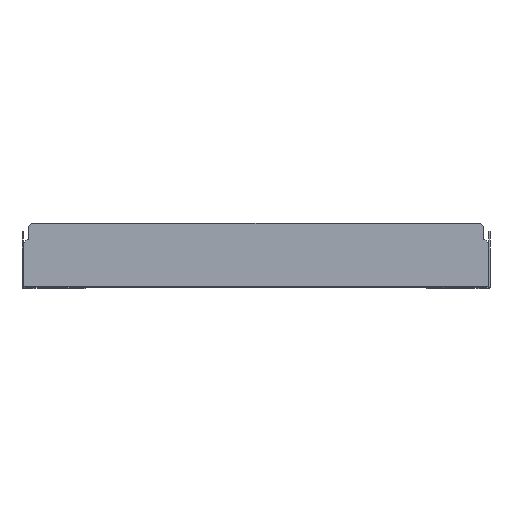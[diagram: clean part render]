
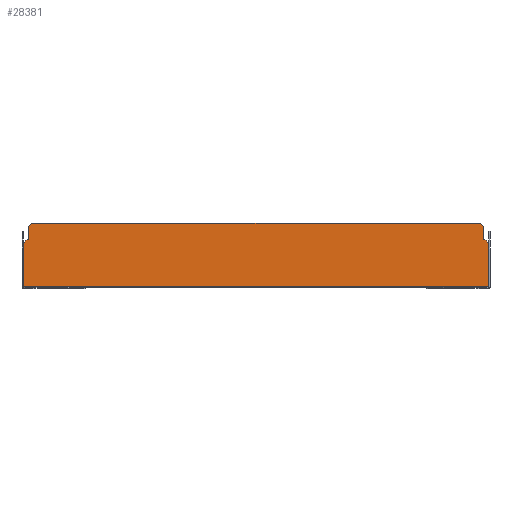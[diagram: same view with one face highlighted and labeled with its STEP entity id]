
A CAD part, front view. The second image highlights one B-rep face of the part: STEP entity #28381.
In plain terms, the highlighted planar face has unit normal (0, -1, 0).
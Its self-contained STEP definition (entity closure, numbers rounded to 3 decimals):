
#26626=CARTESIAN_POINT(' ',(295.175,275.317,4.36));
#26627=VERTEX_POINT(' ',#26626);
#26641=CARTESIAN_POINT(' ',(295.175,275.317,4.36));
#26646=DIRECTION(' ',(-1.,0.,0.));
#26651=VECTOR(' ',#26646,1.);
#26656=LINE('',#26641,#26651);
#26661=CARTESIAN_POINT(' ',(-399.825,275.317,4.36));
#26662=VERTEX_POINT(' ',#26661);
#26666=EDGE_CURVE(' ',#26627,#26662,#26656,.T.);
#26806=CARTESIAN_POINT(' ',(295.175,275.317,69.26));
#26807=VERTEX_POINT(' ',#26806);
#26821=CARTESIAN_POINT(' ',(295.175,275.317,69.26));
#26826=DIRECTION(' ',(0.,0.,-1.));
#26831=VECTOR(' ',#26826,1.);
#26836=LINE('',#26821,#26831);
#26841=EDGE_CURVE(' ',#26807,#26627,#26836,.T.);
#27421=CARTESIAN_POINT(' ',(-399.825,275.317,4.36));
#27426=DIRECTION(' ',(0.,0.,1.));
#27431=VECTOR(' ',#27426,1.);
#27436=LINE('',#27421,#27431);
#27441=CARTESIAN_POINT(' ',(-399.825,275.317,69.26));
#27442=VERTEX_POINT(' ',#27441);
#27446=EDGE_CURVE(' ',#26662,#27442,#27436,.T.);
#28021=DIRECTION(' ',(0.,-1.,0.));
#28026=CARTESIAN_POINT(' ',(-399.825,275.317,99.26));
#28031=DIRECTION(' ',(0.,0.,-1.));
#28036=AXIS2_PLACEMENT_3D(' ',#28026,#28021,#28031);
#28041=PLANE('NONE',#28036);
#28046=ORIENTED_EDGE(' ',*,*,#26841,.F.);
#28051=CARTESIAN_POINT(' ',(295.175,275.317,69.26));
#28056=DIRECTION(' ',(-0.707,0.,0.707));
#28061=VECTOR(' ',#28056,1.);
#28066=LINE('',#28051,#28061);
#28071=CARTESIAN_POINT(' ',(290.175,275.317,74.26));
#28072=VERTEX_POINT(' ',#28071);
#28076=EDGE_CURVE(' ',#26807,#28072,#28066,.T.);
#28081=ORIENTED_EDGE(' ',*,*,#28076,.T.);
#28086=CARTESIAN_POINT(' ',(288.175,275.317,74.26));
#28091=DIRECTION(' ',(1.,0.,0.));
#28096=VECTOR(' ',#28091,1.);
#28101=LINE('',#28086,#28096);
#28106=CARTESIAN_POINT(' ',(288.175,275.317,74.26));
#28107=VERTEX_POINT(' ',#28106);
#28111=EDGE_CURVE(' ',#28107,#28072,#28101,.T.);
#28116=ORIENTED_EDGE(' ',*,*,#28111,.F.);
#28121=CARTESIAN_POINT(' ',(288.175,275.317,74.26));
#28126=DIRECTION(' ',(0.,0.,1.));
#28131=VECTOR(' ',#28126,1.);
#28136=LINE('',#28121,#28131);
#28141=CARTESIAN_POINT(' ',(288.175,275.317,94.26));
#28142=VERTEX_POINT(' ',#28141);
#28146=EDGE_CURVE(' ',#28107,#28142,#28136,.T.);
#28151=ORIENTED_EDGE(' ',*,*,#28146,.T.);
#28156=CARTESIAN_POINT(' ',(288.175,275.317,94.26));
#28161=DIRECTION(' ',(-0.707,0.,0.707));
#28166=VECTOR(' ',#28161,1.);
#28171=LINE('',#28156,#28166);
#28176=CARTESIAN_POINT(' ',(283.175,275.317,99.26));
#28177=VERTEX_POINT(' ',#28176);
#28181=EDGE_CURVE(' ',#28142,#28177,#28171,.T.);
#28186=ORIENTED_EDGE(' ',*,*,#28181,.T.);
#28191=CARTESIAN_POINT(' ',(283.175,275.317,99.26));
#28196=DIRECTION(' ',(-1.,0.,0.));
#28201=VECTOR(' ',#28196,1.);
#28206=LINE('',#28191,#28201);
#28211=CARTESIAN_POINT(' ',(-387.825,275.317,99.26));
#28212=VERTEX_POINT(' ',#28211);
#28216=EDGE_CURVE(' ',#28177,#28212,#28206,.T.);
#28221=ORIENTED_EDGE(' ',*,*,#28216,.T.);
#28226=CARTESIAN_POINT(' ',(-387.825,275.317,99.26));
#28231=DIRECTION(' ',(-0.707,0.,-0.707));
#28236=VECTOR(' ',#28231,1.);
#28241=LINE('',#28226,#28236);
#28246=CARTESIAN_POINT(' ',(-392.825,275.317,94.26));
#28247=VERTEX_POINT(' ',#28246);
#28251=EDGE_CURVE(' ',#28212,#28247,#28241,.T.);
#28256=ORIENTED_EDGE(' ',*,*,#28251,.T.);
#28261=CARTESIAN_POINT(' ',(-392.825,275.317,74.26));
#28266=DIRECTION(' ',(0.,0.,1.));
#28271=VECTOR(' ',#28266,1.);
#28276=LINE('',#28261,#28271);
#28281=CARTESIAN_POINT(' ',(-392.825,275.317,74.26));
#28282=VERTEX_POINT(' ',#28281);
#28286=EDGE_CURVE(' ',#28282,#28247,#28276,.T.);
#28291=ORIENTED_EDGE(' ',*,*,#28286,.F.);
#28296=CARTESIAN_POINT(' ',(-392.825,275.317,74.26));
#28301=DIRECTION(' ',(-1.,0.,0.));
#28306=VECTOR(' ',#28301,1.);
#28311=LINE('',#28296,#28306);
#28316=CARTESIAN_POINT(' ',(-394.825,275.317,74.26));
#28317=VERTEX_POINT(' ',#28316);
#28321=EDGE_CURVE(' ',#28282,#28317,#28311,.T.);
#28326=ORIENTED_EDGE(' ',*,*,#28321,.T.);
#28331=CARTESIAN_POINT(' ',(-394.825,275.317,74.26));
#28336=DIRECTION(' ',(-0.707,0.,-0.707));
#28341=VECTOR(' ',#28336,1.);
#28346=LINE('',#28331,#28341);
#28351=EDGE_CURVE(' ',#28317,#27442,#28346,.T.);
#28356=ORIENTED_EDGE(' ',*,*,#28351,.T.);
#28361=ORIENTED_EDGE(' ',*,*,#27446,.F.);
#28366=ORIENTED_EDGE(' ',*,*,#26666,.F.);
#28371=EDGE_LOOP(' ',(#28046,#28081,#28116,#28151,#28186,#28221,#28256,#28291,#28326,#28356,#28361,#28366));
#28376=FACE_OUTER_BOUND(' ',#28371,.T.);
#28381=ADVANCED_FACE('NONE',(#28376),#28041,.T.);
